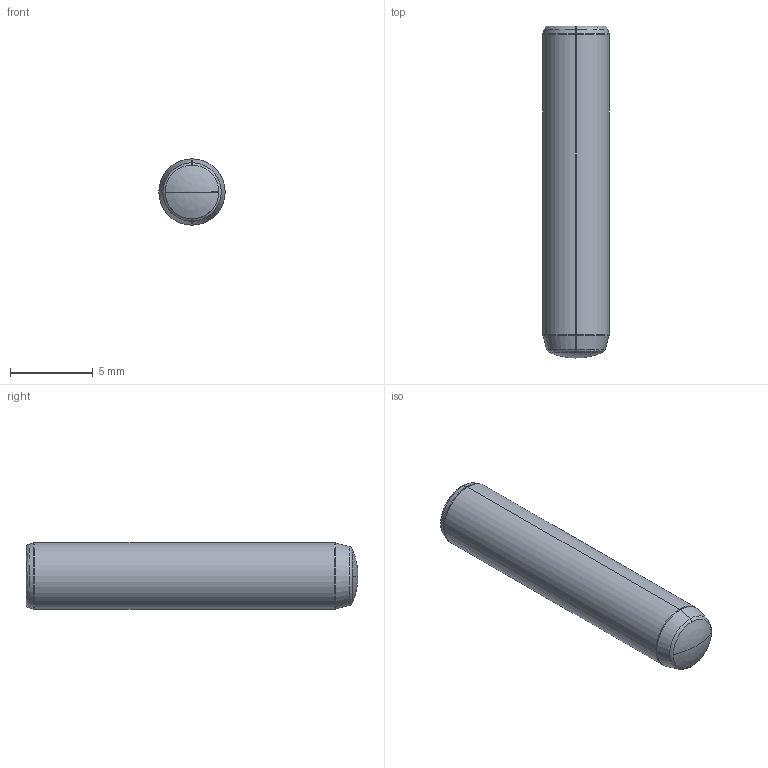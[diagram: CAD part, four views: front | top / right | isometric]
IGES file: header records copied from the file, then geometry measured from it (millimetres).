
Start section: SolidWorks IGES file using analytic representation for surfaces
Global section: file name: D:\Cleonir_arquivos\MT_15_07\Pinos Guia DIN 7979 ISO 8735 com rosca\PG704020.igs; native system: SolidWorks 2013; preprocessor: SolidWorks 2013; author: Cleonir; date: 130730.170816; units: millimetre
Bounding box: 4 x 20 x 4 mm (x, y, z)
Surface area: 312.7 mm2 (no closed solid volume)
Topology: 0 solids, 0 shells, 289 faces, 2129 edges, 2125 vertices
Faces by surface type: bspline 267, revolution 22
